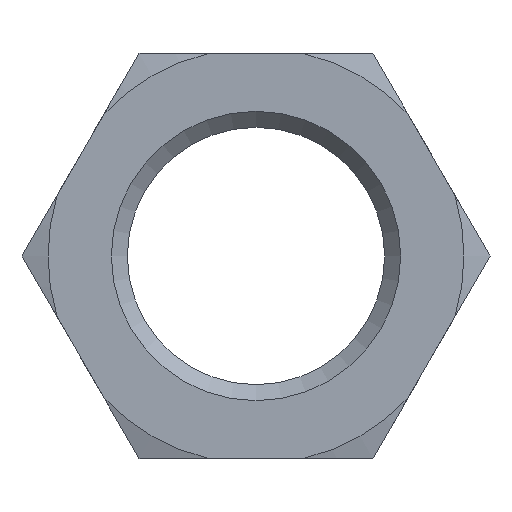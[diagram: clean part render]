
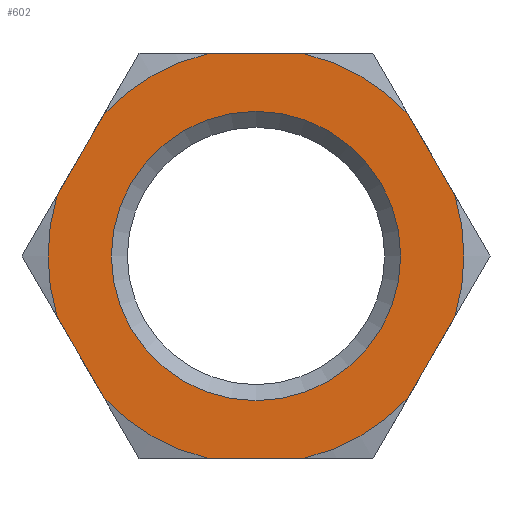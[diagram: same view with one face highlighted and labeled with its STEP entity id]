
A CAD part, front view. The second image highlights one B-rep face of the part: STEP entity #602.
In plain terms, the highlighted planar face has unit normal (0, -1, 0).
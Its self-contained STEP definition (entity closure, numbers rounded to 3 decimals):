
#36=FACE_BOUND('',#173,.T.);
#40=PLANE('',#692);
#65=LINE('',#1040,#91);
#66=LINE('',#1044,#92);
#67=LINE('',#1048,#93);
#68=LINE('',#1052,#94);
#69=LINE('',#1056,#95);
#70=LINE('',#1060,#96);
#91=VECTOR('',#840,10.);
#92=VECTOR('',#843,10.);
#93=VECTOR('',#846,10.);
#94=VECTOR('',#849,10.);
#95=VECTOR('',#852,10.);
#96=VECTOR('',#855,10.);
#136=FACE_OUTER_BOUND('',#172,.T.);
#172=EDGE_LOOP('',(#486,#487,#488,#489,#490,#491,#492,#493,#494,#495,#496,
#497));
#173=EDGE_LOOP('',(#498));
#225=CIRCLE('',#688,13.56);
#228=CIRCLE('',#693,19.5);
#229=CIRCLE('',#694,19.5);
#230=CIRCLE('',#695,19.5);
#231=CIRCLE('',#696,19.5);
#232=CIRCLE('',#697,19.5);
#233=CIRCLE('',#698,19.5);
#276=VERTEX_POINT('',#1028);
#279=VERTEX_POINT('',#1038);
#280=VERTEX_POINT('',#1039);
#281=VERTEX_POINT('',#1041);
#282=VERTEX_POINT('',#1043);
#283=VERTEX_POINT('',#1045);
#284=VERTEX_POINT('',#1047);
#285=VERTEX_POINT('',#1049);
#286=VERTEX_POINT('',#1051);
#287=VERTEX_POINT('',#1053);
#288=VERTEX_POINT('',#1055);
#289=VERTEX_POINT('',#1057);
#290=VERTEX_POINT('',#1059);
#352=EDGE_CURVE('',#276,#276,#225,.T.);
#356=EDGE_CURVE('',#279,#280,#65,.T.);
#357=EDGE_CURVE('',#280,#281,#228,.T.);
#358=EDGE_CURVE('',#281,#282,#66,.T.);
#359=EDGE_CURVE('',#282,#283,#229,.T.);
#360=EDGE_CURVE('',#283,#284,#67,.T.);
#361=EDGE_CURVE('',#284,#285,#230,.T.);
#362=EDGE_CURVE('',#285,#286,#68,.T.);
#363=EDGE_CURVE('',#286,#287,#231,.T.);
#364=EDGE_CURVE('',#287,#288,#69,.T.);
#365=EDGE_CURVE('',#288,#289,#232,.T.);
#366=EDGE_CURVE('',#289,#290,#70,.T.);
#367=EDGE_CURVE('',#290,#279,#233,.T.);
#486=ORIENTED_EDGE('',*,*,#356,.T.);
#487=ORIENTED_EDGE('',*,*,#357,.T.);
#488=ORIENTED_EDGE('',*,*,#358,.T.);
#489=ORIENTED_EDGE('',*,*,#359,.T.);
#490=ORIENTED_EDGE('',*,*,#360,.T.);
#491=ORIENTED_EDGE('',*,*,#361,.T.);
#492=ORIENTED_EDGE('',*,*,#362,.T.);
#493=ORIENTED_EDGE('',*,*,#363,.T.);
#494=ORIENTED_EDGE('',*,*,#364,.T.);
#495=ORIENTED_EDGE('',*,*,#365,.T.);
#496=ORIENTED_EDGE('',*,*,#366,.T.);
#497=ORIENTED_EDGE('',*,*,#367,.T.);
#498=ORIENTED_EDGE('',*,*,#352,.F.);
#602=ADVANCED_FACE('',(#136,#36),#40,.T.);
#688=AXIS2_PLACEMENT_3D('',#1030,#829,#830);
#692=AXIS2_PLACEMENT_3D('',#1037,#838,#839);
#693=AXIS2_PLACEMENT_3D('',#1042,#841,#842);
#694=AXIS2_PLACEMENT_3D('',#1046,#844,#845);
#695=AXIS2_PLACEMENT_3D('',#1050,#847,#848);
#696=AXIS2_PLACEMENT_3D('',#1054,#850,#851);
#697=AXIS2_PLACEMENT_3D('',#1058,#853,#854);
#698=AXIS2_PLACEMENT_3D('',#1061,#856,#857);
#829=DIRECTION('center_axis',(0.,-1.,0.));
#830=DIRECTION('ref_axis',(0.,0.,1.));
#838=DIRECTION('center_axis',(0.,-1.,0.));
#839=DIRECTION('ref_axis',(0.,0.,-1.));
#840=DIRECTION('',(-0.5,0.,-0.866));
#841=DIRECTION('center_axis',(0.,-1.,0.));
#842=DIRECTION('ref_axis',(0.,0.,-1.));
#843=DIRECTION('',(0.5,0.,-0.866));
#844=DIRECTION('center_axis',(0.,-1.,0.));
#845=DIRECTION('ref_axis',(0.,0.,-1.));
#846=DIRECTION('',(1.,0.,0.));
#847=DIRECTION('center_axis',(0.,-1.,0.));
#848=DIRECTION('ref_axis',(0.,0.,-1.));
#849=DIRECTION('',(0.5,0.,0.866));
#850=DIRECTION('center_axis',(0.,-1.,0.));
#851=DIRECTION('ref_axis',(0.,0.,-1.));
#852=DIRECTION('',(-0.5,0.,0.866));
#853=DIRECTION('center_axis',(0.,-1.,0.));
#854=DIRECTION('ref_axis',(0.,0.,-1.));
#855=DIRECTION('',(-1.,0.,0.));
#856=DIRECTION('center_axis',(0.,-1.,0.));
#857=DIRECTION('ref_axis',(0.,0.,-1.));
#1028=CARTESIAN_POINT('',(0.,-42.,-13.56));
#1030=CARTESIAN_POINT('Origin',(0.,-42.,0.));
#1037=CARTESIAN_POINT('Origin',(0.,-42.,-15.78));
#1038=CARTESIAN_POINT('',(-14.261,-42.,13.3));
#1039=CARTESIAN_POINT('',(-18.648,-42.,5.7));
#1040=CARTESIAN_POINT('',(-17.129,-42.,8.333));
#1041=CARTESIAN_POINT('',(-18.648,-42.,-5.7));
#1042=CARTESIAN_POINT('Origin',(0.,-42.,0.));
#1043=CARTESIAN_POINT('',(-14.261,-42.,-13.3));
#1044=CARTESIAN_POINT('',(-15.78,-42.,-10.668));
#1045=CARTESIAN_POINT('',(-4.387,-42.,-19.));
#1046=CARTESIAN_POINT('Origin',(0.,-42.,0.));
#1047=CARTESIAN_POINT('',(4.387,-42.,-19.));
#1048=CARTESIAN_POINT('',(-5.485,-42.,-19.));
#1049=CARTESIAN_POINT('',(14.261,-42.,-13.3));
#1050=CARTESIAN_POINT('Origin',(0.,-42.,0.));
#1051=CARTESIAN_POINT('',(18.648,-42.,-5.7));
#1052=CARTESIAN_POINT('',(10.296,-42.,-20.168));
#1053=CARTESIAN_POINT('',(18.648,-42.,5.7));
#1054=CARTESIAN_POINT('Origin',(0.,-42.,0.));
#1055=CARTESIAN_POINT('',(14.261,-42.,13.3));
#1056=CARTESIAN_POINT('',(22.613,-42.,-1.168));
#1057=CARTESIAN_POINT('',(4.387,-42.,19.));
#1058=CARTESIAN_POINT('Origin',(0.,-42.,0.));
#1059=CARTESIAN_POINT('',(-4.387,-42.,19.));
#1060=CARTESIAN_POINT('',(5.485,-42.,19.));
#1061=CARTESIAN_POINT('Origin',(0.,-42.,0.));
